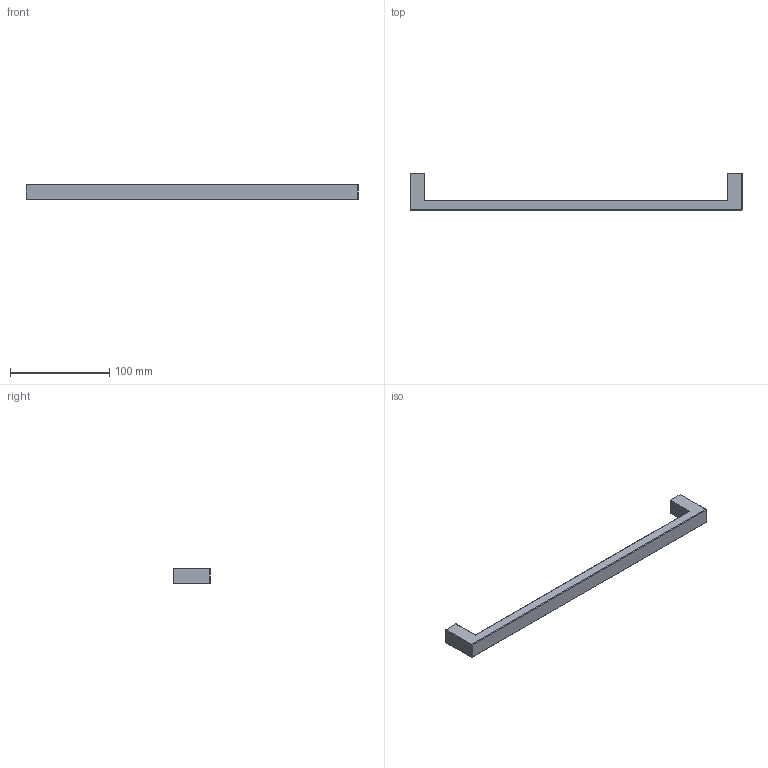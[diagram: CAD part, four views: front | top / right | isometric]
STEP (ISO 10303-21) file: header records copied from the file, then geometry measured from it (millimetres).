
FILE_DESCRIPTION( ( '' ), '1' );
FILE_NAME( 'C:/Documents and Settings/Sachin/Desktop/Sheet 10_1/stp/9069808.stp', '2013-10-22T06:55:24', ( '' ), ( '' ), ' ', ' ', ' ' );
FILE_SCHEMA( ( 'CONFIG_CONTROL_DESIGN' ) );
Length unit declared in the file: millimetre
Products named in the file (1): 1
Bounding box: 335 x 37 x 16 mm (x, y, z)
Volume: 66276.5 mm3; surface area: 20946.1 mm2
Topology: 1 solids, 1 shells, 36 faces, 88 edges, 56 vertices
Faces by surface type: cylinder 20, plane 16
Entity records: 1108 total; most frequent: DIRECTION 198, CARTESIAN_POINT 181, ORIENTED_EDGE 176, EDGE_CURVE 88, AXIS2_PLACEMENT_3D 73, VERTEX_POINT 56, LINE 52, VECTOR 52
